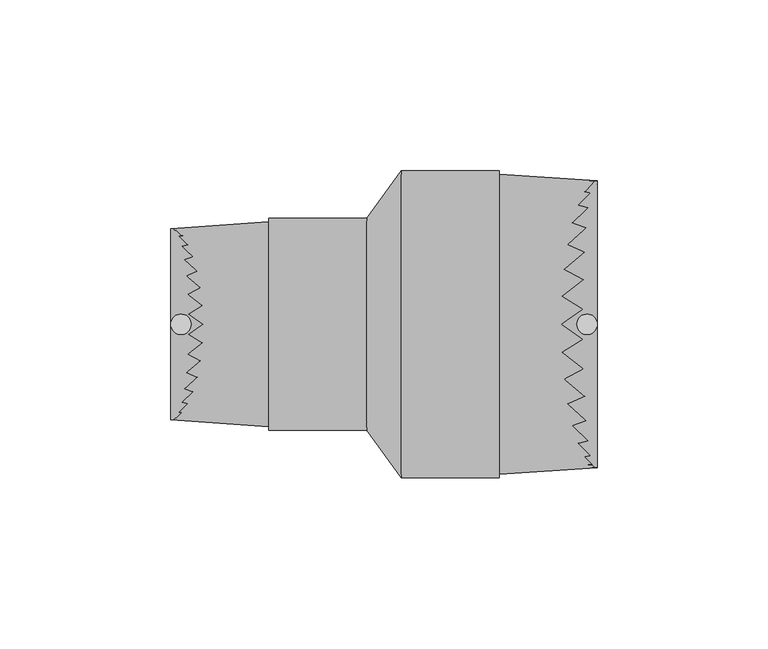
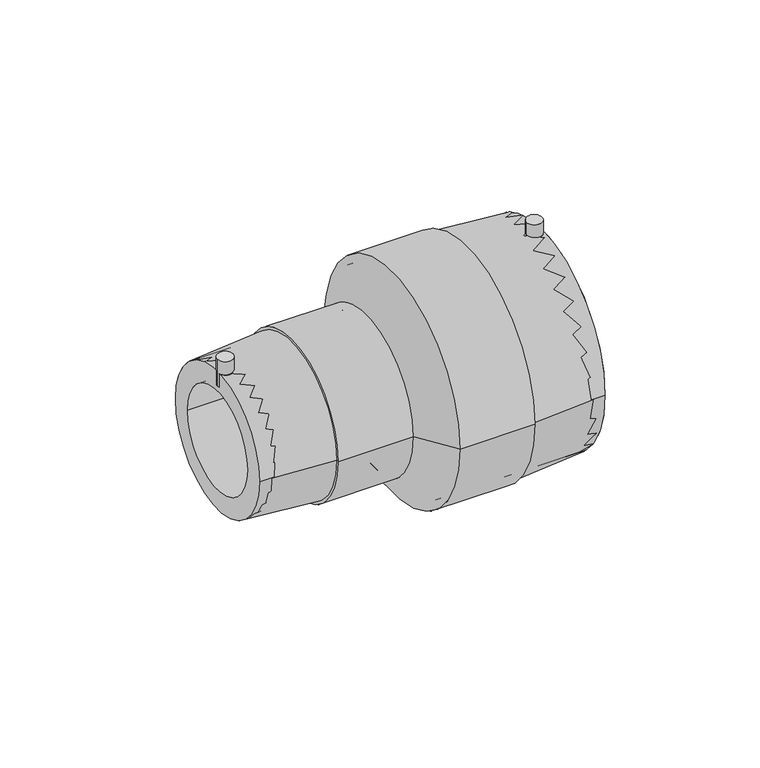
"""IFC4 building model written with IfcOpenShell, lengths in millimetres: pipe fitting geometry, EGB_VASEN_ PPR_Manguito reductor electrosoldable WXRD110 : Manguito reductor electrosoldable WXRD110."""

from ifc_helpers import new_model, si_unit, point, frame, frame_2d, origin, origin_2d, place, context, project, spatial, polyline, circle_curve, trimmed, segment, composite_curve, outline, extrude, source, transform, mapped, element, save
from ifc_brep_helpers import plane_surface, cylinder_surface, revolved_surface, advanced_brep


def pipe_fitting_0905fa45(model_context):
    return source(origin(), model_context, "Body", "SolidModel", [
        extrude(outline(composite_curve([segment(trimmed(circle_curve(frame_2d((59.5, 0.0)), 3.0), [point((56.5, 0.0))], [point((62.5, 0.0))], False, "CARTESIAN"), True, "CONTINUOUS"), segment(trimmed(circle_curve(frame_2d((59.5, 0.0)), 3.0), [point((62.5, 0.0))], [point((56.5, 0.0))], False, "CARTESIAN"), True, "CONTINUOUS")], self_intersect=False)), frame((0.0, 0.0, 33.5), z_axis=(0.0, 0.0, 1.0), x_axis=(1.0, 0.0, 0.0)), (0.0, 0.0, 1.0), 13.5),
        extrude(outline(composite_curve([segment(trimmed(circle_curve(frame_2d((-59.5, 0.0)), 3.0), [point((-62.5, 0.0))], [point((-56.5, 0.0))], False, "CARTESIAN"), True, "CONTINUOUS"), segment(trimmed(circle_curve(frame_2d((-59.5, 0.0)), 3.0), [point((-56.5, 0.0))], [point((-62.5, 0.0))], False, "CARTESIAN"), True, "CONTINUOUS")], self_intersect=False)), frame((0.0, 0.0, 22.0), z_axis=(0.0, 0.0, 1.0), x_axis=(1.0, 0.0, 0.0)), (0.0, 0.0, 1.0), 11.0),
        extrude(outline(composite_curve([segment(trimmed(circle_curve(origin_2d(), 42.0), [point((-42.0, 0.0))], [point((42.0, 0.0))], False, "CARTESIAN"), True, "CONTINUOUS"), segment(trimmed(circle_curve(origin_2d(), 42.0), [point((42.0, 0.0))], [point((-42.0, 0.0))], False, "CARTESIAN"), True, "CONTINUOUS")], self_intersect=False), holes=[composite_curve([segment(trimmed(circle_curve(origin_2d(), 31.5), [point((-31.5, 0.0))], [point((31.5, 0.0))], True, "CARTESIAN"), True, "CONTINUOUS"), segment(trimmed(circle_curve(origin_2d(), 31.5), [point((31.5, 0.0))], [point((-31.5, 0.0))], True, "CARTESIAN"), True, "CONTINUOUS")], self_intersect=False)]), frame((5.0, 0.0, 0.0), z_axis=(1.0, 0.0, 0.0), x_axis=(0.0, 1.0, 0.0)), (0.0, 0.0, 1.0), 57.5),
        extrude(outline(composite_curve([segment(trimmed(circle_curve(origin_2d(), 28.0), [point((-28.0, 0.0))], [point((28.0, 0.0))], False, "CARTESIAN"), True, "CONTINUOUS"), segment(trimmed(circle_curve(origin_2d(), 28.0), [point((28.0, 0.0))], [point((-28.0, 0.0))], False, "CARTESIAN"), True, "CONTINUOUS")], self_intersect=False), holes=[composite_curve([segment(trimmed(circle_curve(origin_2d(), 20.0), [point((-20.0, 0.0))], [point((20.0, 0.0))], True, "CARTESIAN"), True, "CONTINUOUS"), segment(trimmed(circle_curve(origin_2d(), 20.0), [point((20.0, 0.0))], [point((-20.0, 0.0))], True, "CARTESIAN"), True, "CONTINUOUS")], self_intersect=False)]), frame((-62.5, 0.0, 0.0), z_axis=(1.0, 0.0, 0.0), x_axis=(0.0, 1.0, 0.0)), (0.0, 0.0, 1.0), 57.5),
        advanced_brep(
        [(5.0, -42.0, 0.0), (5.0, 42.0, 0.0), (-5.0, -28.0, 0.0), (-5.0, 28.0, 0.0)],
        [
            (0, 1, circle_curve(frame((5.0, 0.0, 0.0), z_axis=(1.0, 0.0, 0.0), x_axis=(0.0, -1.0, 0.0)), 42.0)),
            (1, 0, circle_curve(frame((5.0, 0.0, 0.0), z_axis=(1.0, 0.0, 0.0), x_axis=(0.0, 1.0, 0.0)), 42.0)),
            (2, 3, circle_curve(frame((-5.0, 0.0, 0.0), z_axis=(-1.0, 0.0, 0.0), x_axis=(0.0, 1.0, 0.0)), 28.0)),
            (3, 2, circle_curve(frame((-5.0, 0.0, 0.0), z_axis=(-1.0, 0.0, 0.0), x_axis=(0.0, -1.0, 0.0)), 28.0)),
            (3, 1),
            (0, 2),
        ],
        [
            plane_surface(frame((5.0, 0.0, 0.0), z_axis=(1.0, 0.0, 0.0), x_axis=(0.0, 0.0, -1.0))),
            plane_surface(frame((-5.0, 0.0, 0.0), z_axis=(-1.0, 0.0, 0.0), x_axis=(0.0, 0.0, -1.0))),
            revolved_surface(polyline([(-5.0, 28.0, 0.0), (5.0, 42.0, 0.0)]), (-25.0, 0.0, 0.0), (1.0, 0.0, 0.0)),
            revolved_surface(polyline([(-5.0, -28.0, 0.0), (5.0, -42.0, 0.0)]), (-25.0, 0.0, 0.0), (1.0, 0.0, 0.0)),
        ],
        [
            (0, [[1, 2]]),
            (1, [[3, 4]]),
            (2, [[-4, 5, -1, 6]]),
            (3, [[-3, -6, -2, -5]]),
        ],
    ),
        advanced_brep(
        [(5.0, -42.0, 0.0), (5.0, 42.0, 0.0), (-5.0, 28.0, 0.0), (-5.0, -28.0, 0.0), (62.5, -42.0, 0.0), (62.5, 42.0, 0.0), (33.75, -44.0, 0.0), (33.75, 44.0, 0.0), (33.75, -45.0, 0.0), (33.75, 45.0, 0.0), (5.0, -45.0, 0.0), (5.0, 45.0, 0.0), (-5.0, -31.0, 0.0), (-5.0, 31.0, 0.0), (-33.75, -31.0, 0.0), (-33.75, 31.0, 0.0), (-33.75, -30.0, 0.0), (-33.75, 30.0, 0.0), (-62.5, -28.0, 0.0), (-62.5, 28.0, 0.0)],
        [
            (0, 1, circle_curve(frame((5.0, 0.0, 0.0), z_axis=(1.0, 0.0, 0.0), x_axis=(0.0, 1.0, 0.0)), 42.0)),
            (1, 2),
            (2, 3, circle_curve(frame((-5.0, 0.0, 0.0), z_axis=(-1.0, 0.0, 0.0), x_axis=(0.0, 1.0, 0.0)), 28.0)),
            (3, 0),
            (1, 0, circle_curve(frame((5.0, 0.0, 0.0), z_axis=(1.0, 0.0, 0.0), x_axis=(0.0, 1.0, 0.0)), 42.0)),
            (3, 2, circle_curve(frame((-5.0, 0.0, 0.0), z_axis=(-1.0, 0.0, 0.0), x_axis=(0.0, 1.0, 0.0)), 28.0)),
            (4, 5, circle_curve(frame((62.5, 0.0, 0.0), z_axis=(1.0, 0.0, 0.0), x_axis=(0.0, 1.0, 0.0)), 42.0)),
            (5, 1),
            (0, 4),
            (5, 4, circle_curve(frame((62.5, 0.0, 0.0), z_axis=(1.0, 0.0, 0.0), x_axis=(0.0, 1.0, 0.0)), 42.0)),
            (6, 7, circle_curve(frame((33.75, 0.0, 0.0), z_axis=(1.0, 0.0, 0.0), x_axis=(0.0, 1.0, 0.0)), 44.0)),
            (7, 5),
            (4, 6),
            (7, 6, circle_curve(frame((33.75, 0.0, 0.0), z_axis=(1.0, 0.0, 0.0), x_axis=(0.0, 1.0, 0.0)), 44.0)),
            (8, 9, circle_curve(frame((33.75, 0.0, 0.0), z_axis=(1.0, 0.0, 0.0), x_axis=(0.0, 1.0, 0.0)), 45.0)),
            (9, 7),
            (6, 8),
            (9, 8, circle_curve(frame((33.75, 0.0, 0.0), z_axis=(1.0, 0.0, 0.0), x_axis=(0.0, 1.0, 0.0)), 45.0)),
            (10, 11, circle_curve(frame((5.0, 0.0, 0.0), z_axis=(1.0, 0.0, 0.0), x_axis=(0.0, 1.0, 0.0)), 45.0)),
            (11, 9),
            (8, 10),
            (11, 10, circle_curve(frame((5.0, 0.0, 0.0), z_axis=(1.0, 0.0, 0.0), x_axis=(0.0, 1.0, 0.0)), 45.0)),
            (12, 13, circle_curve(frame((-5.0, 0.0, 0.0), z_axis=(1.0, 0.0, 0.0), x_axis=(0.0, 1.0, 0.0)), 31.0)),
            (13, 11),
            (10, 12),
            (13, 12, circle_curve(frame((-5.0, 0.0, 0.0), z_axis=(1.0, 0.0, 0.0), x_axis=(0.0, 1.0, 0.0)), 31.0)),
            (14, 15, circle_curve(frame((-33.75, 0.0, 0.0), z_axis=(1.0, 0.0, 0.0), x_axis=(0.0, 1.0, 0.0)), 31.0)),
            (15, 13),
            (12, 14),
            (15, 14, circle_curve(frame((-33.75, 0.0, 0.0), z_axis=(1.0, 0.0, 0.0), x_axis=(0.0, 1.0, 0.0)), 31.0)),
            (16, 17, circle_curve(frame((-33.75, 0.0, 0.0), z_axis=(1.0, 0.0, 0.0), x_axis=(0.0, 1.0, 0.0)), 30.0)),
            (17, 15),
            (14, 16),
            (17, 16, circle_curve(frame((-33.75, 0.0, 0.0), z_axis=(1.0, 0.0, 0.0), x_axis=(0.0, 1.0, 0.0)), 30.0)),
            (18, 19, circle_curve(frame((-62.5, 0.0, 0.0), z_axis=(1.0, 0.0, 0.0), x_axis=(0.0, 1.0, 0.0)), 28.0)),
            (19, 17),
            (16, 18),
            (19, 18, circle_curve(frame((-62.5, 0.0, 0.0), z_axis=(1.0, 0.0, 0.0), x_axis=(0.0, 1.0, 0.0)), 28.0)),
            (2, 19),
            (18, 3),
        ],
        [
            revolved_surface(polyline([(-5.0, 28.0, 0.0), (5.0, 42.0, 0.0)]), (-97.5, 0.0, 0.0), (-1.0, 0.0, 0.0)),
            revolved_surface(polyline([(5.0, 42.0, 0.0), (62.5, 42.0, 0.0)]), (-97.5, 0.0, 0.0), (-1.0, 0.0, 0.0)),
            revolved_surface(polyline([(62.5, 42.0, 0.0), (33.75, 44.0, 0.0)]), (-97.5, 0.0, 0.0), (-1.0, 0.0, 0.0)),
            plane_surface(frame((33.75, 0.0, 0.0), z_axis=(1.0, 0.0, 0.0), x_axis=(0.0, 1.0, 0.0))),
            cylinder_surface(frame((-97.5, 0.0, 0.0), z_axis=(-1.0, 0.0, 0.0), x_axis=(0.0, 1.0, 0.0)), 45.0),
            revolved_surface(polyline([(5.0, 45.0, 0.0), (-5.0, 31.0, 0.0)]), (-97.5, 0.0, 0.0), (-1.0, 0.0, 0.0)),
            cylinder_surface(frame((-97.5, 0.0, 0.0), z_axis=(-1.0, 0.0, 0.0), x_axis=(0.0, 1.0, 0.0)), 31.0),
            plane_surface(frame((-33.75, 0.0, 0.0), z_axis=(-1.0, 0.0, 0.0), x_axis=(0.0, 1.0, 0.0))),
            revolved_surface(polyline([(-33.75, 30.0, 0.0), (-62.5, 28.0, 0.0)]), (-97.5, 0.0, 0.0), (-1.0, 0.0, 0.0)),
            revolved_surface(polyline([(-62.5, 28.0, 0.0), (-5.0, 28.0, 0.0)]), (-97.5, 0.0, 0.0), (-1.0, 0.0, 0.0)),
        ],
        [
            (0, [[1, 2, 3, 4]]),
            (0, [[5, -4, 6, -2]]),
            (1, [[7, 8, -1, 9]]),
            (1, [[10, -9, -5, -8]]),
            (2, [[11, 12, -7, 13]]),
            (2, [[14, -13, -10, -12]]),
            (3, [[15, 16, -11, 17]]),
            (3, [[18, -17, -14, -16]]),
            (4, [[19, 20, -15, 21]]),
            (4, [[22, -21, -18, -20]]),
            (5, [[23, 24, -19, 25]]),
            (5, [[26, -25, -22, -24]]),
            (6, [[27, 28, -23, 29]]),
            (6, [[30, -29, -26, -28]]),
            (7, [[31, 32, -27, 33]]),
            (7, [[34, -33, -30, -32]]),
            (8, [[35, 36, -31, 37]]),
            (8, [[38, -37, -34, -36]]),
            (9, [[-3, 39, -35, 40]]),
            (9, [[-6, -40, -38, -39]]),
        ],
    ),
    ])


if __name__ == "__main__":
    model = new_model("IFC4")
    model_context = context("Model", 3, world=origin())
    ifc_project = project(units=[si_unit("LENGTHUNIT", "METRE", prefix="MILLI")], contexts=[model_context])
    site = spatial("IfcSite", under=ifc_project)
    building = spatial("IfcBuilding", under=site)
    placement = place(None, origin())
    pipe_fitting_shape = pipe_fitting_0905fa45(model_context)
    element("IfcPipeFitting", 1, ObjectType="EGB_VASEN_ PPR_Manguito reductor electrosoldable WXRD110 : Manguito reductor electrosoldable WXRD110", at=placement, inside=building, context=model_context, shape_type="MappedRepresentation", body=[
        mapped(pipe_fitting_shape, transform((0.0, 0.0, 0.0), x_axis=(1.0, 0.0, 0.0), y_axis=(0.0, 1.0, 0.0), z_axis=(0.0, 0.0, 1.0))),
    ])
    save(model, "model.ifc")
